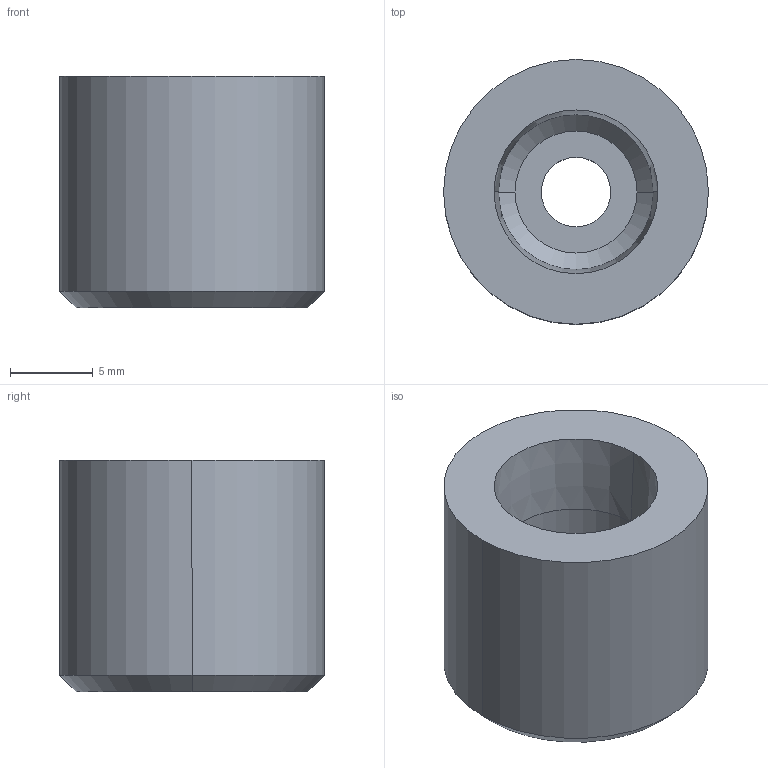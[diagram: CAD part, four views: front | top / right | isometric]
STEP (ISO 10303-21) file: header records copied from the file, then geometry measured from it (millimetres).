
FILE_DESCRIPTION (( 'STEP AP214' ), '1' );
FILE_NAME ('VTPNB16-3.STEP', '2024-05-30T21:45:24', ( '' ), ( '' ), 'SwSTEP 2.0', 'SolidWorks 2017', '' );
FILE_SCHEMA (( 'AUTOMOTIVE_DESIGN' ));
Length unit declared in the file: millimetre
Products named in the file (1): VTPNB16-3
Bounding box: 16 x 16 x 14 mm (x, y, z)
Volume: 2149.9 mm3; surface area: 1339.9 mm2
Topology: 1 solids, 1 shells, 15 faces, 30 edges, 18 vertices
Faces by surface type: cylinder 6, cone 6, plane 3
Entity records: 454 total; most frequent: DIRECTION 80, CARTESIAN_POINT 64, ORIENTED_EDGE 60, AXIS2_PLACEMENT_3D 34, EDGE_CURVE 30, EDGE_LOOP 18, CIRCLE 18, VERTEX_POINT 18
